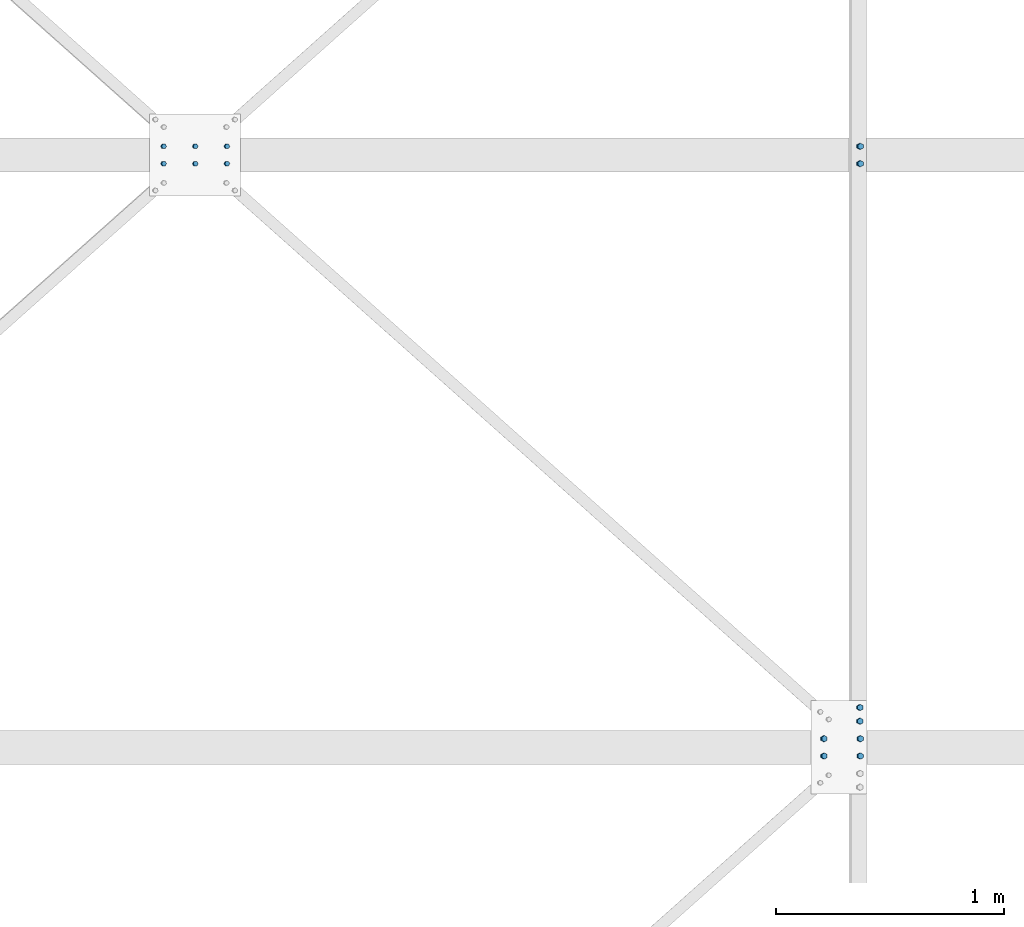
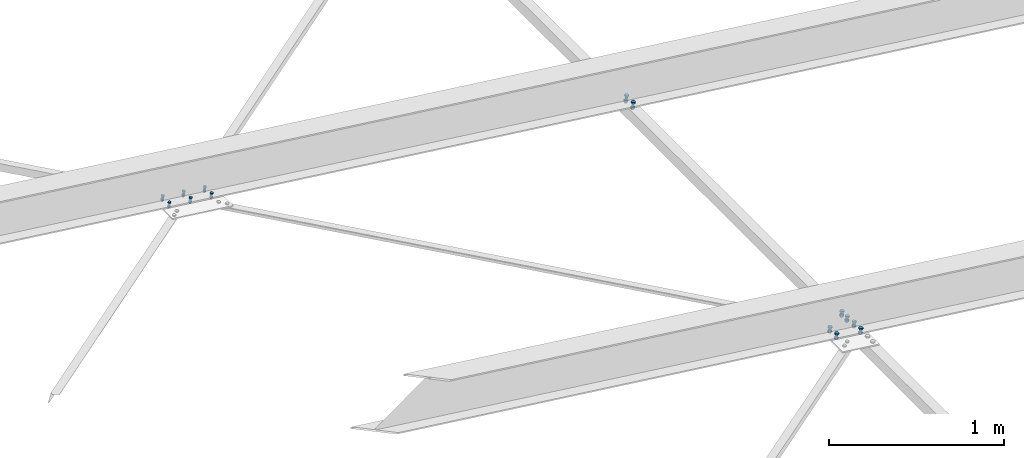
# One storey, part 102 of 3134: 4 mechanical fasteners, 4 elements without a shape of their own.
"""IFC2X3 building model written with IfcOpenShell, lengths in millimetres."""

from ifc_helpers import new_model, si_unit, frame, origin_with_axes, place, context, subcontext, project, spatial, faceted_brep, source, transform, mapped, material, type_object, element, aggregate, save


model = new_model("IFC2X3")

# Units and contexts
model_context = context("Model", 3, precision=1e-05, world=origin_with_axes())
body_context = subcontext(model_context, "Body", "Model", "MODEL_VIEW")
ifc_project = project(units=[si_unit("LENGTHUNIT", "METRE", prefix="MILLI"), si_unit("AREAUNIT", "SQUARE_METRE"), si_unit("VOLUMEUNIT", "CUBIC_METRE"), si_unit("MASSUNIT", "GRAM", prefix="KILO"), si_unit("TIMEUNIT", "SECOND"), si_unit("PLANEANGLEUNIT", "RADIAN"), si_unit("SOLIDANGLEUNIT", "STERADIAN"), si_unit("THERMODYNAMICTEMPERATUREUNIT", "DEGREE_CELSIUS"), si_unit("LUMINOUSINTENSITYUNIT", "LUMEN")], contexts=[model_context])

# Site, building, storey
site_placement = place(None, origin_with_axes())
site = spatial("IfcSite", under=ifc_project, at=site_placement, CompositionType="ELEMENT")
building_placement = place(site_placement, origin_with_axes())
building = spatial("IfcBuilding", under=site, at=building_placement, Name="Undefined", CompositionType="ELEMENT")
storey_placement = place(building_placement, origin_with_axes())
storey = spatial("IfcBuildingStorey", under=building, at=storey_placement, Name="Undefined", CompositionType="ELEMENT", Elevation=0.0)

# Assembly, mechanical fastener
assembly_1_placement = place(storey_placement, origin_with_axes())
assembly_1 = element("IfcElementAssembly", 1, at=assembly_1_placement, inside=storey, Name="300", AssemblyPlace="NOTDEFINED", PredefinedType="RIGID_FRAME")
ifc_material = material(Name="8.8")
mechanical_fastener_type = type_object("IfcMechanicalFastenerType", Name="Bolt assembly")
shared_shape_1 = source(origin_with_axes(), body_context, "Body", "Brep", [
    faceted_brep([(13.856406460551, -19.199990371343, 0.0), (6.92820323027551, -19.199990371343, 12.0), (-6.92820323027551, -19.199990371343, 12.0), (-13.856406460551, -19.199990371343, 1.69692038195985e-15), (-6.92820323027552, -19.199990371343, -12.0), (6.9282032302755, -19.199990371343, -12.0), (6.9282032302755, -9.19999037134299, -12.0), (-6.92820323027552, -9.19999037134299, -12.0), (-13.856406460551, -9.19999037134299, 1.69692038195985e-15), (-6.92820323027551, -9.19999037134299, 12.0), (6.92820323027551, -9.19999037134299, 12.0), (13.856406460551, -9.19999037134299, 0.0), (8.0, -9.19999037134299, 0.0), (6.92820323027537, -9.19999037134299, 4.00000000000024), (3.99999999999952, -9.19999037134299, 6.92820323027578), (-8.29068785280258e-13, -9.19999037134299, 8.0), (-4.00000000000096, -9.19999037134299, 6.92820323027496), (-6.9282032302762, -9.19999037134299, 3.99999999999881), (-8.0, -9.19999037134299, -1.65813757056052e-12), (-6.92820323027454, -9.19999037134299, -4.00000000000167), (-3.99999999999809, -9.19999037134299, -6.92820323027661), (2.47832457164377e-12, -9.19999037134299, -8.0), (4.00000000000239, -9.19999037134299, -6.92820323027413), (6.92820323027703, -9.19999037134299, -3.99999999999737), (6.92820323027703, 25.800009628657, -3.99999999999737), (4.00000000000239, 25.800009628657, -6.92820323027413), (2.47832457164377e-12, 25.800009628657, -8.0), (-3.99999999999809, 25.800009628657, -6.92820323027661), (-6.92820323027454, 25.800009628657, -4.00000000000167), (-8.0, 25.800009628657, -1.65813757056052e-12), (-6.9282032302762, 25.800009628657, 3.99999999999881), (-4.00000000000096, 25.800009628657, 6.92820323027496), (-8.29068785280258e-13, 25.800009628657, 8.0), (3.99999999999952, 25.800009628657, 6.92820323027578), (6.92820323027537, 25.800009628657, 4.00000000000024), (8.0, 25.800009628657, 0.0), (13.856406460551, 8.00000637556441, 0.0), (6.92820323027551, 8.00000637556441, 12.0), (-6.92820323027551, 8.00000637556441, 12.0), (-13.856406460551, 8.00000637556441, 1.69692038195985e-15), (-6.92820323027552, 8.00000637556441, -12.0), (6.9282032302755, 8.00000637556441, -12.0), (6.9282032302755, 21.0000063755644, -12.0), (-6.92820323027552, 21.0000063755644, -12.0), (-13.856406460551, 21.0000063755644, 1.69692038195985e-15), (-6.92820323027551, 21.0000063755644, 12.0), (6.92820323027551, 21.0000063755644, 12.0), (13.856406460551, 21.0000063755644, 0.0)], [[[0, 1, 2, 3, 4, 5]], [[6, 7, 8, 9, 10, 11]], [[0, 11, 10, 1]], [[1, 10, 9, 2]], [[2, 9, 8, 3]], [[3, 8, 7, 4]], [[4, 7, 6, 5]], [[5, 6, 11, 0]], [[12, 13, 14, 15, 16, 17, 18, 19, 20, 21, 22, 23]], [[24, 25, 26, 27, 28, 29, 30, 31, 32, 33, 34, 35]], [[12, 35, 34, 13]], [[13, 34, 33, 14]], [[14, 33, 32, 15]], [[15, 32, 31, 16]], [[16, 31, 30, 17]], [[17, 30, 29, 18]], [[18, 29, 28, 19]], [[19, 28, 27, 20]], [[20, 27, 26, 21]], [[21, 26, 25, 22]], [[22, 25, 24, 23]], [[23, 24, 35, 12]], [[36, 37, 38, 39, 40, 41]], [[42, 43, 44, 45, 46, 47]], [[36, 47, 46, 37]], [[37, 46, 45, 38]], [[38, 45, 44, 39]], [[39, 44, 43, 40]], [[40, 43, 42, 41]], [[41, 42, 47, 36]]]),
    faceted_brep([(9.0, -0.1, 0.0), (7.79422863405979, -0.1, 4.50000000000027), (4.49999999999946, -0.1, 7.79422863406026), (-9.3270238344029e-13, -0.1, 9.0), (-4.50000000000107, -0.1, 7.79422863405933), (-7.79422863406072, -0.1, 4.49999999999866), (-9.0, -0.1, -1.86540476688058e-12), (-7.79422863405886, -0.1, -4.50000000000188), (-4.49999999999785, -0.1, -7.79422863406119), (2.78811514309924e-12, -0.1, -9.0), (4.50000000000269, -0.1, -7.7942286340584), (7.79422863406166, -0.1, -4.49999999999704), (7.79422863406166, 8.00000000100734, -4.49999999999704), (4.50000000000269, 8.00000000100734, -7.7942286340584), (2.78811514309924e-12, 8.00000000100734, -9.0), (-4.49999999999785, 8.00000000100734, -7.79422863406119), (-7.79422863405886, 8.00000000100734, -4.50000000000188), (-9.0, 8.00000000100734, -1.86540476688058e-12), (-7.79422863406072, 8.00000000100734, 4.49999999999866), (-4.50000000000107, 8.00000000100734, 7.79422863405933), (-9.3270238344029e-13, 8.00000000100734, 9.0), (4.49999999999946, 8.00000000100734, 7.79422863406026), (7.79422863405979, 8.00000000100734, 4.50000000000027), (9.0, 8.00000000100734, 0.0), (9.0, -9.09999037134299, 0.0), (7.79422863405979, -9.09999037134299, 4.50000000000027), (4.49999999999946, -9.09999037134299, 7.79422863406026), (-9.3270238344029e-13, -9.09999037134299, 9.0), (-4.50000000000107, -9.09999037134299, 7.79422863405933), (-7.79422863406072, -9.09999037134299, 4.49999999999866), (-9.0, -9.09999037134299, -1.86540476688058e-12), (-7.79422863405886, -9.09999037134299, -4.50000000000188), (-4.49999999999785, -9.09999037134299, -7.79422863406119), (2.78811514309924e-12, -9.09999037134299, -9.0), (4.50000000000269, -9.09999037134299, -7.7942286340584), (7.79422863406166, -9.09999037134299, -4.49999999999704), (7.79422863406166, 0.100000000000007, -4.49999999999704), (4.50000000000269, 0.100000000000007, -7.7942286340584), (2.78811514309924e-12, 0.100000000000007, -9.0), (-4.49999999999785, 0.100000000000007, -7.79422863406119), (-7.79422863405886, 0.100000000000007, -4.50000000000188), (-9.0, 0.100000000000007, -1.86540476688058e-12), (-7.79422863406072, 0.100000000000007, 4.49999999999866), (-4.50000000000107, 0.100000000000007, 7.79422863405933), (-9.3270238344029e-13, 0.100000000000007, 9.0), (4.49999999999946, 0.100000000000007, 7.79422863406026), (7.79422863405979, 0.100000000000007, 4.50000000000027), (9.0, 0.100000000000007, 0.0)], [[[0, 1, 2, 3, 4, 5, 6, 7, 8, 9, 10, 11]], [[12, 13, 14, 15, 16, 17, 18, 19, 20, 21, 22, 23]], [[0, 23, 22, 1]], [[1, 22, 21, 2]], [[2, 21, 20, 3]], [[3, 20, 19, 4]], [[4, 19, 18, 5]], [[5, 18, 17, 6]], [[6, 17, 16, 7]], [[7, 16, 15, 8]], [[8, 15, 14, 9]], [[9, 14, 13, 10]], [[10, 13, 12, 11]], [[11, 12, 23, 0]], [[24, 25, 26, 27, 28, 29, 30, 31, 32, 33, 34, 35]], [[36, 37, 38, 39, 40, 41, 42, 43, 44, 45, 46, 47]], [[24, 47, 46, 25]], [[25, 46, 45, 26]], [[26, 45, 44, 27]], [[27, 44, 43, 28]], [[28, 43, 42, 29]], [[29, 42, 41, 30]], [[30, 41, 40, 31]], [[31, 40, 39, 32]], [[32, 39, 38, 33]], [[33, 38, 37, 34]], [[34, 37, 36, 35]], [[35, 36, 47, 24]]]),
])
mechanical_fastener_1_placement = place(assembly_1_placement, frame((26608.5751064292, 24612.0, 4816.43281405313), z_axis=(-0.992623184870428, 0.0, 0.121240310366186), x_axis=(0.0, 1.0, 0.0)))
mechanical_fastener_1 = element("IfcMechanicalFastener", 2, at=mechanical_fastener_1_placement, type_object=mechanical_fastener_type, material=ifc_material, Name="Bolt assembly", NominalDiameter=16.0, NominalLength=35.0, context=body_context, shape_type="MappedRepresentation", body=[
    mapped(shared_shape_1, transform((0.0, -5.32963895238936e-10, -79.9999999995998))),
    mapped(shared_shape_1, transform((76.0, -5.32963895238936e-10, -79.9999999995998))),
    mapped(shared_shape_1, transform((0.0, 5.3114490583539e-10, 79.9999999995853))),
    mapped(shared_shape_1, transform((76.0, 5.3114490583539e-10, 79.9999999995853))),
])
aggregate(assembly_1, [mechanical_fastener_1])

assembly_2_placement = place(storey_placement, origin_with_axes())
assembly_2 = element("IfcElementAssembly", 3, at=assembly_2_placement, inside=storey, AssemblyPlace="NOTDEFINED", PredefinedType="RIGID_FRAME")
shared_shape_2 = source(origin_with_axes(), body_context, "Body", "Brep", [
    faceted_brep([(13.856406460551, -19.199990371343, 0.0), (6.92820323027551, -19.199990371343, 12.0), (-6.92820323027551, -19.199990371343, 12.0), (-13.856406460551, -19.199990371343, 1.69692038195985e-15), (-6.92820323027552, -19.199990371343, -12.0), (6.9282032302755, -19.199990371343, -12.0), (6.9282032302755, -9.19999037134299, -12.0), (-6.92820323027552, -9.19999037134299, -12.0), (-13.856406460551, -9.19999037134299, 1.69692038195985e-15), (-6.92820323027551, -9.19999037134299, 12.0), (6.92820323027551, -9.19999037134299, 12.0), (13.856406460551, -9.19999037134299, 0.0), (8.0, -9.19999037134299, 0.0), (6.92820323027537, -9.19999037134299, 4.00000000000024), (3.99999999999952, -9.19999037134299, 6.92820323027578), (-8.29068785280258e-13, -9.19999037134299, 8.0), (-4.00000000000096, -9.19999037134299, 6.92820323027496), (-6.9282032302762, -9.19999037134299, 3.99999999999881), (-8.0, -9.19999037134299, -1.65813757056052e-12), (-6.92820323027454, -9.19999037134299, -4.00000000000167), (-3.99999999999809, -9.19999037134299, -6.92820323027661), (2.47832457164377e-12, -9.19999037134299, -8.0), (4.00000000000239, -9.19999037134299, -6.92820323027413), (6.92820323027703, -9.19999037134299, -3.99999999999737), (6.92820323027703, 35.8000002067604, -3.99999999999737), (4.00000000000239, 35.8000002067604, -6.92820323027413), (2.47832457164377e-12, 35.8000002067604, -8.0), (-3.99999999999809, 35.8000002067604, -6.92820323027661), (-6.92820323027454, 35.8000002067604, -4.00000000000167), (-8.0, 35.8000002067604, -1.65813757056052e-12), (-6.9282032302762, 35.8000002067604, 3.99999999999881), (-4.00000000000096, 35.8000002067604, 6.92820323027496), (-8.29068785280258e-13, 35.8000002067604, 8.0), (3.99999999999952, 35.8000002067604, 6.92820323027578), (6.92820323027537, 35.8000002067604, 4.00000000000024), (8.0, 35.8000002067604, 0.0), (13.856406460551, 14.9999995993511, 0.0), (6.92820323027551, 14.9999995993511, 12.0), (-6.92820323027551, 14.9999995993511, 12.0), (-13.856406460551, 14.9999995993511, 1.69692038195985e-15), (-6.92820323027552, 14.9999995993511, -12.0), (6.9282032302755, 14.9999995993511, -12.0), (6.9282032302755, 27.9999995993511, -12.0), (-6.92820323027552, 27.9999995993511, -12.0), (-13.856406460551, 27.9999995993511, 1.69692038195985e-15), (-6.92820323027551, 27.9999995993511, 12.0), (6.92820323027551, 27.9999995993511, 12.0), (13.856406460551, 27.9999995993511, 0.0)], [[[0, 1, 2, 3, 4, 5]], [[6, 7, 8, 9, 10, 11]], [[0, 11, 10, 1]], [[1, 10, 9, 2]], [[2, 9, 8, 3]], [[3, 8, 7, 4]], [[4, 7, 6, 5]], [[5, 6, 11, 0]], [[12, 13, 14, 15, 16, 17, 18, 19, 20, 21, 22, 23]], [[24, 25, 26, 27, 28, 29, 30, 31, 32, 33, 34, 35]], [[12, 35, 34, 13]], [[13, 34, 33, 14]], [[14, 33, 32, 15]], [[15, 32, 31, 16]], [[16, 31, 30, 17]], [[17, 30, 29, 18]], [[18, 29, 28, 19]], [[19, 28, 27, 20]], [[20, 27, 26, 21]], [[21, 26, 25, 22]], [[22, 25, 24, 23]], [[23, 24, 35, 12]], [[36, 37, 38, 39, 40, 41]], [[42, 43, 44, 45, 46, 47]], [[36, 47, 46, 37]], [[37, 46, 45, 38]], [[38, 45, 44, 39]], [[39, 44, 43, 40]], [[40, 43, 42, 41]], [[41, 42, 47, 36]]]),
    faceted_brep([(9.0, -9.09999037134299, 0.0), (7.79422863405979, -9.09999037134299, 4.50000000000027), (4.49999999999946, -9.09999037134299, 7.79422863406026), (-9.3270238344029e-13, -9.09999037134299, 9.0), (-4.50000000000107, -9.09999037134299, 7.79422863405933), (-7.79422863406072, -9.09999037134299, 4.49999999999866), (-9.0, -9.09999037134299, -1.86540476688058e-12), (-7.79422863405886, -9.09999037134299, -4.50000000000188), (-4.49999999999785, -9.09999037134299, -7.79422863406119), (2.78811514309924e-12, -9.09999037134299, -9.0), (4.50000000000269, -9.09999037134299, -7.7942286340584), (7.79422863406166, -9.09999037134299, -4.49999999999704), (7.79422863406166, 0.100000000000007, -4.49999999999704), (4.50000000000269, 0.100000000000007, -7.7942286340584), (2.78811514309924e-12, 0.100000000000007, -9.0), (-4.49999999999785, 0.100000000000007, -7.79422863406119), (-7.79422863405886, 0.100000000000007, -4.50000000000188), (-9.0, 0.100000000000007, -1.86540476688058e-12), (-7.79422863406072, 0.100000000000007, 4.49999999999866), (-4.50000000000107, 0.100000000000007, 7.79422863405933), (-9.3270238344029e-13, 0.100000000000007, 9.0), (4.49999999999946, 0.100000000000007, 7.79422863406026), (7.79422863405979, 0.100000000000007, 4.50000000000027), (9.0, 0.100000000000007, 0.0), (9.0, 7.9, 0.0), (7.79422863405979, 7.9, 4.50000000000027), (4.49999999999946, 7.9, 7.79422863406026), (-9.3270238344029e-13, 7.9, 9.0), (-4.50000000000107, 7.9, 7.79422863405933), (-7.79422863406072, 7.9, 4.49999999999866), (-9.0, 7.9, -1.86540476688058e-12), (-7.79422863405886, 7.9, -4.50000000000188), (-4.49999999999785, 7.9, -7.79422863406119), (2.78811514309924e-12, 7.9, -9.0), (4.50000000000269, 7.9, -7.7942286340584), (7.79422863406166, 7.9, -4.49999999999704), (7.79422863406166, 14.9999995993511, -4.49999999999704), (4.50000000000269, 14.9999995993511, -7.7942286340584), (2.78811514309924e-12, 14.9999995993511, -9.0), (-4.49999999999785, 14.9999995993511, -7.79422863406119), (-7.79422863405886, 14.9999995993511, -4.50000000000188), (-9.0, 14.9999995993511, -1.86540476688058e-12), (-7.79422863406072, 14.9999995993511, 4.49999999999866), (-4.50000000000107, 14.9999995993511, 7.79422863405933), (-9.3270238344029e-13, 14.9999995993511, 9.0), (4.49999999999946, 14.9999995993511, 7.79422863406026), (7.79422863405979, 14.9999995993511, 4.50000000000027), (9.0, 14.9999995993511, 0.0)], [[[0, 1, 2, 3, 4, 5, 6, 7, 8, 9, 10, 11]], [[12, 13, 14, 15, 16, 17, 18, 19, 20, 21, 22, 23]], [[0, 23, 22, 1]], [[1, 22, 21, 2]], [[2, 21, 20, 3]], [[3, 20, 19, 4]], [[4, 19, 18, 5]], [[5, 18, 17, 6]], [[6, 17, 16, 7]], [[7, 16, 15, 8]], [[8, 15, 14, 9]], [[9, 14, 13, 10]], [[10, 13, 12, 11]], [[11, 12, 23, 0]], [[24, 25, 26, 27, 28, 29, 30, 31, 32, 33, 34, 35]], [[36, 37, 38, 39, 40, 41, 42, 43, 44, 45, 46, 47]], [[24, 47, 46, 25]], [[25, 46, 45, 26]], [[26, 45, 44, 27]], [[27, 44, 43, 28]], [[28, 43, 42, 29]], [[29, 42, 41, 30]], [[30, 41, 40, 31]], [[31, 40, 39, 32]], [[32, 39, 38, 33]], [[33, 38, 37, 34]], [[34, 37, 36, 35]], [[35, 36, 47, 24]]]),
])
mechanical_fastener_2_placement = place(assembly_2_placement, frame((26687.9849612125, 27212.0, 4806.73358922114), z_axis=(-0.992623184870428, 0.0, 0.121240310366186), x_axis=(0.0, 1.0, 0.0)))
mechanical_fastener_2 = element("IfcMechanicalFastener", 4, at=mechanical_fastener_2_placement, type_object=mechanical_fastener_type, material=ifc_material, Name="Bolt assembly", NominalDiameter=16.0, NominalLength=45.0, context=body_context, shape_type="MappedRepresentation", body=[
    mapped(shared_shape_2, transform((0.0, 0.0, 0.0))),
    mapped(shared_shape_2, transform((76.0, 0.0, 0.0))),
])
aggregate(assembly_2, [mechanical_fastener_2])

assembly_3_placement = place(storey_placement, origin_with_axes())
assembly_3 = element("IfcElementAssembly", 5, at=assembly_3_placement, inside=storey, Name="PL8", AssemblyPlace="NOTDEFINED", PredefinedType="RIGID_FRAME")
shared_shape_3 = source(origin_with_axes(), body_context, "Body", "Brep", [
    faceted_brep([(13.856406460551, -10.0, 0.0), (6.92820323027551, -10.0, 12.0), (-6.92820323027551, -10.0, 12.0), (-13.856406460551, -10.0, 1.69692038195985e-15), (-6.92820323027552, -10.0, -12.0), (6.9282032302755, -10.0, -12.0), (6.9282032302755, 0.0, -12.0), (-6.92820323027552, 0.0, -12.0), (-13.856406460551, 0.0, 1.69692038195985e-15), (-6.92820323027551, 0.0, 12.0), (6.92820323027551, 0.0, 12.0), (13.856406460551, 0.0, 0.0), (8.0, 0.0, 0.0), (6.92820323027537, 0.0, 4.00000000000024), (3.99999999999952, 0.0, 6.92820323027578), (-8.29068785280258e-13, 0.0, 8.0), (-4.00000000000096, 0.0, 6.92820323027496), (-6.9282032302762, 0.0, 3.99999999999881), (-8.0, 0.0, -1.65813757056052e-12), (-6.92820323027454, 0.0, -4.00000000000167), (-3.99999999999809, 0.0, -6.92820323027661), (2.47832457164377e-12, 0.0, -8.0), (4.00000000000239, 0.0, -6.92820323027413), (6.92820323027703, 0.0, -3.99999999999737), (6.92820323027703, 35.0000000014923, -3.99999999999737), (4.00000000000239, 35.0000000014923, -6.92820323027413), (2.47832457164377e-12, 35.0000000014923, -8.0), (-3.99999999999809, 35.0000000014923, -6.92820323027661), (-6.92820323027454, 35.0000000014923, -4.00000000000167), (-8.0, 35.0000000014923, -1.65813757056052e-12), (-6.9282032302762, 35.0000000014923, 3.99999999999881), (-4.00000000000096, 35.0000000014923, 6.92820323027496), (-8.29068785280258e-13, 35.0000000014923, 8.0), (3.99999999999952, 35.0000000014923, 6.92820323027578), (6.92820323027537, 35.0000000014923, 4.00000000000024), (8.0, 35.0000000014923, 0.0), (13.856406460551, 14.9999995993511, 0.0), (6.92820323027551, 14.9999995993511, 12.0), (-6.92820323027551, 14.9999995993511, 12.0), (-13.856406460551, 14.9999995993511, 1.69692038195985e-15), (-6.92820323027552, 14.9999995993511, -12.0), (6.9282032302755, 14.9999995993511, -12.0), (6.9282032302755, 27.9999995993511, -12.0), (-6.92820323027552, 27.9999995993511, -12.0), (-13.856406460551, 27.9999995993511, 1.69692038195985e-15), (-6.92820323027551, 27.9999995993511, 12.0), (6.92820323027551, 27.9999995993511, 12.0), (13.856406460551, 27.9999995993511, 0.0)], [[[0, 1, 2, 3, 4, 5]], [[6, 7, 8, 9, 10, 11]], [[0, 11, 10, 1]], [[1, 10, 9, 2]], [[2, 9, 8, 3]], [[3, 8, 7, 4]], [[4, 7, 6, 5]], [[5, 6, 11, 0]], [[12, 13, 14, 15, 16, 17, 18, 19, 20, 21, 22, 23]], [[24, 25, 26, 27, 28, 29, 30, 31, 32, 33, 34, 35]], [[12, 35, 34, 13]], [[13, 34, 33, 14]], [[14, 33, 32, 15]], [[15, 32, 31, 16]], [[16, 31, 30, 17]], [[17, 30, 29, 18]], [[18, 29, 28, 19]], [[19, 28, 27, 20]], [[20, 27, 26, 21]], [[21, 26, 25, 22]], [[22, 25, 24, 23]], [[23, 24, 35, 12]], [[36, 37, 38, 39, 40, 41]], [[42, 43, 44, 45, 46, 47]], [[36, 47, 46, 37]], [[37, 46, 45, 38]], [[38, 45, 44, 39]], [[39, 44, 43, 40]], [[40, 43, 42, 41]], [[41, 42, 47, 36]]]),
    faceted_brep([(9.0, 7.9, 0.0), (7.79422863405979, 7.9, 4.50000000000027), (4.49999999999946, 7.9, 7.79422863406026), (-9.3270238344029e-13, 7.9, 9.0), (-4.50000000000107, 7.9, 7.79422863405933), (-7.79422863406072, 7.9, 4.49999999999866), (-9.0, 7.9, -1.86540476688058e-12), (-7.79422863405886, 7.9, -4.50000000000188), (-4.49999999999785, 7.9, -7.79422863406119), (2.78811514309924e-12, 7.9, -9.0), (4.50000000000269, 7.9, -7.7942286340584), (7.79422863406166, 7.9, -4.49999999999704), (7.79422863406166, 14.9999995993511, -4.49999999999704), (4.50000000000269, 14.9999995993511, -7.7942286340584), (2.78811514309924e-12, 14.9999995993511, -9.0), (-4.49999999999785, 14.9999995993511, -7.79422863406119), (-7.79422863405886, 14.9999995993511, -4.50000000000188), (-9.0, 14.9999995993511, -1.86540476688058e-12), (-7.79422863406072, 14.9999995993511, 4.49999999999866), (-4.50000000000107, 14.9999995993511, 7.79422863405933), (-9.3270238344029e-13, 14.9999995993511, 9.0), (4.49999999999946, 14.9999995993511, 7.79422863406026), (7.79422863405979, 14.9999995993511, 4.50000000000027), (9.0, 14.9999995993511, 0.0), (9.0, 0.100000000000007, 0.0), (7.79422863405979, 0.100000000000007, 4.50000000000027), (4.49999999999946, 0.100000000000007, 7.79422863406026), (-9.3270238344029e-13, 0.100000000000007, 9.0), (-4.50000000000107, 0.100000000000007, 7.79422863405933), (-7.79422863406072, 0.100000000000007, 4.49999999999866), (-9.0, 0.100000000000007, -1.86540476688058e-12), (-7.79422863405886, 0.100000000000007, -4.50000000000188), (-4.49999999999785, 0.100000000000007, -7.79422863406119), (2.78811514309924e-12, 0.100000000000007, -9.0), (4.50000000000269, 0.100000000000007, -7.7942286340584), (7.79422863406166, 0.100000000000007, -4.49999999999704), (7.79422863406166, 8.1, -4.49999999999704), (4.50000000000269, 8.1, -7.7942286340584), (2.78811514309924e-12, 8.1, -9.0), (-4.49999999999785, 8.1, -7.79422863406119), (-7.79422863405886, 8.1, -4.50000000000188), (-9.0, 8.1, -1.86540476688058e-12), (-7.79422863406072, 8.1, 4.49999999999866), (-4.50000000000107, 8.1, 7.79422863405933), (-9.3270238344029e-13, 8.1, 9.0), (4.49999999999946, 8.1, 7.79422863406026), (7.79422863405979, 8.1, 4.50000000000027), (9.0, 8.1, 0.0)], [[[0, 1, 2, 3, 4, 5, 6, 7, 8, 9, 10, 11]], [[12, 13, 14, 15, 16, 17, 18, 19, 20, 21, 22, 23]], [[0, 23, 22, 1]], [[1, 22, 21, 2]], [[2, 21, 20, 3]], [[3, 20, 19, 4]], [[4, 19, 18, 5]], [[5, 18, 17, 6]], [[6, 17, 16, 7]], [[7, 16, 15, 8]], [[8, 15, 14, 9]], [[9, 14, 13, 10]], [[10, 13, 12, 11]], [[11, 12, 23, 0]], [[24, 25, 26, 27, 28, 29, 30, 31, 32, 33, 34, 35]], [[36, 37, 38, 39, 40, 41, 42, 43, 44, 45, 46, 47]], [[24, 47, 46, 25]], [[25, 46, 45, 26]], [[26, 45, 44, 27]], [[27, 44, 43, 28]], [[28, 43, 42, 29]], [[29, 42, 41, 30]], [[30, 41, 40, 31]], [[31, 40, 39, 32]], [[32, 39, 38, 33]], [[33, 38, 37, 34]], [[34, 37, 36, 35]], [[35, 36, 47, 24]]]),
])
mechanical_fastener_3_placement = place(assembly_3_placement, frame((26687.9849612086, 24825.0, 4806.73358922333), z_axis=(0.992623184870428, 0.0, -0.121240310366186), x_axis=(0.0, -1.0, 0.0)))
mechanical_fastener_3 = element("IfcMechanicalFastener", 6, at=mechanical_fastener_3_placement, type_object=mechanical_fastener_type, material=ifc_material, Name="Bolt assembly", NominalDiameter=16.0, NominalLength=35.0, context=body_context, shape_type="MappedRepresentation", body=[
    mapped(shared_shape_3, transform((0.0, 0.0, 0.0))),
    mapped(shared_shape_3, transform((59.9999999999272, 0.0, 5.40239852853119e-10))),
])
aggregate(assembly_3, [mechanical_fastener_3])

assembly_4_placement = place(storey_placement, origin_with_axes())
assembly_4 = element("IfcElementAssembly", 7, at=assembly_4_placement, inside=storey, Name="300", AssemblyPlace="NOTDEFINED", PredefinedType="RIGID_FRAME")
shared_shape_4 = source(origin_with_axes(), body_context, "Body", "Brep", [
    faceted_brep([(10.9696551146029, -17.1999998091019, 0.0), (5.48482755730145, -17.1999998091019, 9.5), (-5.48482755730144, -17.1999998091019, 9.5), (-10.9696551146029, -17.1999998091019, 1.34339530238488e-15), (-5.48482755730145, -17.1999998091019, -9.5), (5.48482755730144, -17.1999998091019, -9.50000000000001), (5.48482755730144, -9.19999978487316, -9.50000000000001), (-5.48482755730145, -9.19999978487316, -9.5), (-10.9696551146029, -9.19999978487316, 1.34339530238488e-15), (-5.48482755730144, -9.19999978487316, 9.5), (5.48482755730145, -9.19999978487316, 9.5), (10.9696551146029, -9.19999978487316, 0.0), (6.0, -9.19999978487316, 0.0), (5.19615242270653, -9.19999978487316, 3.00000000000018), (2.99999999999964, -9.19999978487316, 5.19615242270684), (-6.21801588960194e-13, -9.19999978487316, 6.0), (-3.00000000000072, -9.19999978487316, 5.19615242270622), (-5.19615242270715, -9.19999978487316, 2.9999999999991), (-6.0, -9.19999978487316, -1.24360317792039e-12), (-5.19615242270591, -9.19999978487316, -3.00000000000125), (-2.99999999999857, -9.19999978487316, -5.19615242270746), (1.85874342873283e-12, -9.19999978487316, -6.0), (3.00000000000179, -9.19999978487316, -5.1961524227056), (5.19615242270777, -9.19999978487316, -2.99999999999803), (5.19615242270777, 25.8000002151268, -2.99999999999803), (3.00000000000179, 25.8000002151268, -5.1961524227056), (1.85874342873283e-12, 25.8000002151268, -6.0), (-2.99999999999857, 25.8000002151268, -5.19615242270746), (-5.19615242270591, 25.8000002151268, -3.00000000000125), (-6.0, 25.8000002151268, -1.24360317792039e-12), (-5.19615242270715, 25.8000002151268, 2.9999999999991), (-3.00000000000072, 25.8000002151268, 5.19615242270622), (-6.21801588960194e-13, 25.8000002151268, 6.0), (2.99999999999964, 25.8000002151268, 5.19615242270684), (5.19615242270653, 25.8000002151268, 3.00000000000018), (6.0, 25.8000002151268, 0.0), (10.9696551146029, 8.0, 0.0), (5.48482755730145, 8.0, 9.5), (-5.48482755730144, 8.0, 9.5), (-10.9696551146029, 8.0, 1.34339530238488e-15), (-5.48482755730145, 8.0, -9.5), (5.48482755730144, 8.0, -9.50000000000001), (5.48482755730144, 18.0, -9.50000000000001), (-5.48482755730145, 18.0, -9.5), (-10.9696551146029, 18.0, 1.34339530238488e-15), (-5.48482755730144, 18.0, 9.5), (5.48482755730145, 18.0, 9.5), (10.9696551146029, 18.0, 0.0)], [[[0, 1, 2, 3, 4, 5]], [[6, 7, 8, 9, 10, 11]], [[0, 11, 10, 1]], [[1, 10, 9, 2]], [[2, 9, 8, 3]], [[3, 8, 7, 4]], [[4, 7, 6, 5]], [[5, 6, 11, 0]], [[12, 13, 14, 15, 16, 17, 18, 19, 20, 21, 22, 23]], [[24, 25, 26, 27, 28, 29, 30, 31, 32, 33, 34, 35]], [[12, 35, 34, 13]], [[13, 34, 33, 14]], [[14, 33, 32, 15]], [[15, 32, 31, 16]], [[16, 31, 30, 17]], [[17, 30, 29, 18]], [[18, 29, 28, 19]], [[19, 28, 27, 20]], [[20, 27, 26, 21]], [[21, 26, 25, 22]], [[22, 25, 24, 23]], [[23, 24, 35, 12]], [[36, 37, 38, 39, 40, 41]], [[42, 43, 44, 45, 46, 47]], [[36, 47, 46, 37]], [[37, 46, 45, 38]], [[38, 45, 44, 39]], [[39, 44, 43, 40]], [[40, 43, 42, 41]], [[41, 42, 47, 36]]]),
    faceted_brep([(7.0, -0.1, 0.0), (6.06217782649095, -0.1, 3.50000000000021), (3.49999999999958, -0.1, 6.06217782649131), (-7.25435187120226e-13, -0.1, 7.0), (-3.50000000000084, -0.1, 6.06217782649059), (-6.06217782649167, -0.1, 3.49999999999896), (-7.0, -0.1, -1.45087037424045e-12), (-6.06217782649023, -0.1, -3.50000000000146), (-3.49999999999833, -0.1, -6.06217782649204), (2.1685340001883e-12, -0.1, -7.0), (3.50000000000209, -0.1, -6.06217782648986), (6.0621778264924, -0.1, -3.4999999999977), (6.0621778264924, 8.0000000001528, -3.4999999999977), (3.50000000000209, 8.0000000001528, -6.06217782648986), (2.1685340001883e-12, 8.0000000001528, -7.0), (-3.49999999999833, 8.0000000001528, -6.06217782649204), (-6.06217782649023, 8.0000000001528, -3.50000000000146), (-7.0, 8.0000000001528, -1.45087037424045e-12), (-6.06217782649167, 8.0000000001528, 3.49999999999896), (-3.50000000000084, 8.0000000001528, 6.06217782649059), (-7.25435187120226e-13, 8.0000000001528, 7.0), (3.49999999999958, 8.0000000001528, 6.06217782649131), (6.06217782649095, 8.0000000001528, 3.50000000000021), (7.0, 8.0000000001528, 0.0), (7.0, -9.09999980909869, 0.0), (6.06217782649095, -9.09999980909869, 3.50000000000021), (3.49999999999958, -9.09999980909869, 6.06217782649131), (-7.25435187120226e-13, -9.09999980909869, 7.0), (-3.50000000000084, -9.09999980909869, 6.06217782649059), (-6.06217782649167, -9.09999980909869, 3.49999999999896), (-7.0, -9.09999980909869, -1.45087037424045e-12), (-6.06217782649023, -9.09999980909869, -3.50000000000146), (-3.49999999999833, -9.09999980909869, -6.06217782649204), (2.1685340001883e-12, -9.09999980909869, -7.0), (3.50000000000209, -9.09999980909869, -6.06217782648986), (6.0621778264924, -9.09999980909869, -3.4999999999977), (6.0621778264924, 0.0999999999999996, -3.4999999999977), (3.50000000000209, 0.0999999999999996, -6.06217782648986), (2.1685340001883e-12, 0.0999999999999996, -7.0), (-3.49999999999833, 0.0999999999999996, -6.06217782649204), (-6.06217782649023, 0.0999999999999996, -3.50000000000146), (-7.0, 0.0999999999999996, -1.45087037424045e-12), (-6.06217782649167, 0.0999999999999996, 3.49999999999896), (-3.50000000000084, 0.0999999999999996, 6.06217782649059), (-7.25435187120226e-13, 0.0999999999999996, 7.0), (3.49999999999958, 0.0999999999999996, 6.06217782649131), (6.06217782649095, 0.0999999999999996, 3.50000000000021), (7.0, 0.0999999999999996, 0.0)], [[[0, 1, 2, 3, 4, 5, 6, 7, 8, 9, 10, 11]], [[12, 13, 14, 15, 16, 17, 18, 19, 20, 21, 22, 23]], [[0, 23, 22, 1]], [[1, 22, 21, 2]], [[2, 21, 20, 3]], [[3, 20, 19, 4]], [[4, 19, 18, 5]], [[5, 18, 17, 6]], [[6, 17, 16, 7]], [[7, 16, 15, 8]], [[8, 15, 14, 9]], [[9, 14, 13, 10]], [[10, 13, 12, 11]], [[11, 12, 23, 0]], [[24, 25, 26, 27, 28, 29, 30, 31, 32, 33, 34, 35]], [[36, 37, 38, 39, 40, 41, 42, 43, 44, 45, 46, 47]], [[24, 47, 46, 25]], [[25, 46, 45, 26]], [[26, 45, 44, 27]], [[27, 44, 43, 28]], [[28, 43, 42, 29]], [[29, 42, 41, 30]], [[30, 41, 40, 31]], [[31, 40, 39, 32]], [[32, 39, 38, 33]], [[33, 38, 37, 34]], [[34, 37, 36, 35]], [[35, 36, 47, 24]]]),
])
mechanical_fastener_4_placement = place(assembly_4_placement, frame((23908.2022067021, 27250.0, 5146.25993625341), z_axis=(0.0, -1.0, 0.0), x_axis=(-0.992623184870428, 0.0, 0.121240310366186)))
mechanical_fastener_4 = element("IfcMechanicalFastener", 8, at=mechanical_fastener_4_placement, type_object=mechanical_fastener_type, material=ifc_material, Name="Bolt assembly", NominalDiameter=12.0, NominalLength=35.0, context=body_context, shape_type="MappedRepresentation", body=[
    mapped(shared_shape_4, transform((0.0, 0.0, -38.0))),
    mapped(shared_shape_4, transform((140.000000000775, 5.85714587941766e-10, -38.0))),
    mapped(shared_shape_4, transform((279.999999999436, -4.74756234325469e-10, -38.0))),
    mapped(shared_shape_4, transform((0.0, 0.0, 38.0))),
    mapped(shared_shape_4, transform((140.000000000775, 5.85714587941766e-10, 38.0))),
    mapped(shared_shape_4, transform((279.999999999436, -4.74756234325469e-10, 38.0))),
])
aggregate(assembly_4, [mechanical_fastener_4])

save(model, "model.ifc")
